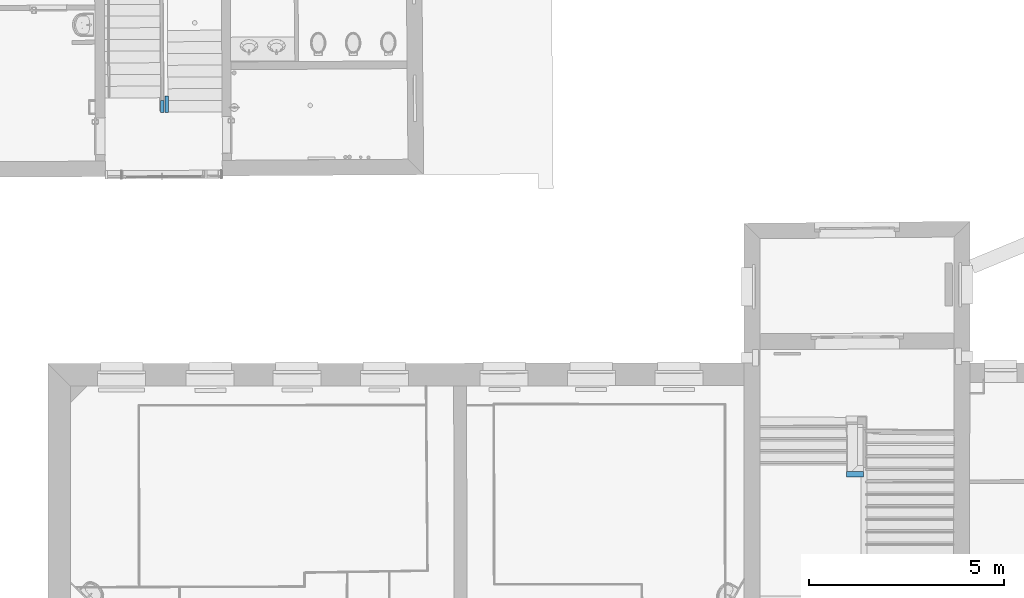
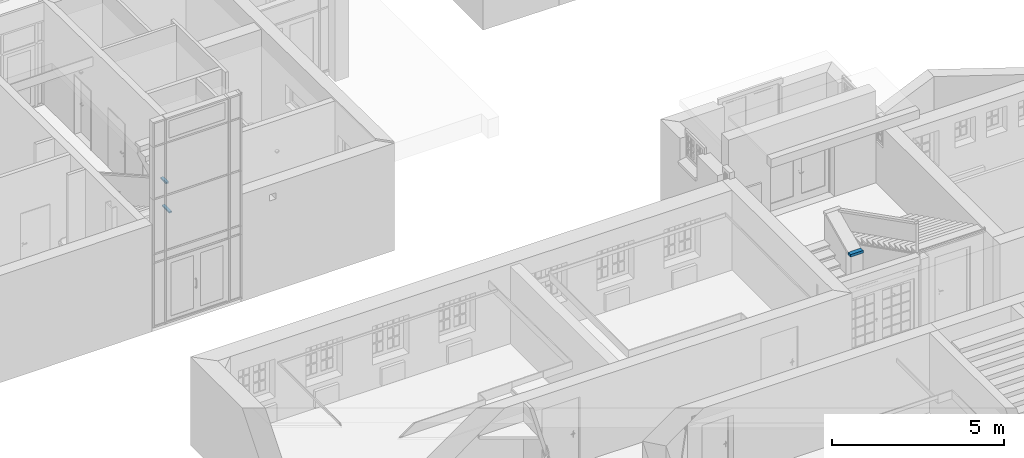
# One storey, part 8 of 196: 3 beams.
"""IFC2X3 building model written with IfcOpenShell, lengths in metres."""

from ifc_helpers import new_model, entity, si_unit, converted_unit, derived_unit, money_unit, direction, frame, frame_2d, origin_with_axes, place, context, subcontext, project, spatial, rectangle, extrude, clip, halfspace, material, type_object, element, save


model = new_model("IFC2X3")

# Units and contexts
model_context = context("Model", 3, precision=1e-05, world=origin_with_axes(), true_north=direction((0.0, 1.0)))
body_context = subcontext(model_context, "Body", "Model", "MODEL_VIEW")
ifc_project = project(units=[si_unit("LENGTHUNIT", "METRE"), si_unit("AREAUNIT", "SQUARE_METRE"), si_unit("VOLUMEUNIT", "CUBIC_METRE"), converted_unit("PLANEANGLEUNIT", "DEGREE", entity("IfcPlaneAngleMeasure", 0.0174532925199), si_unit("PLANEANGLEUNIT", "RADIAN"), dimensions=[0, 0, 0, 0, 0, 0, 0]), money_unit("EUR"), converted_unit("TIMEUNIT", "Year", entity("IfcTimeMeasure", 31556926.0), si_unit("TIMEUNIT", "SECOND"), dimensions=[0, 0, 1, 0, 0, 0, 0]), si_unit("MASSUNIT", "GRAM", prefix="KILO"), si_unit("THERMODYNAMICTEMPERATUREUNIT", "DEGREE_CELSIUS"), si_unit("LUMINOUSINTENSITYUNIT", "LUMEN"), si_unit("ENERGYUNIT", "JOULE", prefix="MEGA"), derived_unit("THERMALCONDUCTANCEUNIT", [(si_unit("POWERUNIT", "WATT"), 1), (si_unit("LENGTHUNIT", "METRE"), -1), (si_unit("THERMODYNAMICTEMPERATUREUNIT", "KELVIN"), -1)]), derived_unit("SPECIFICHEATCAPACITYUNIT", [(si_unit("ENERGYUNIT", "JOULE"), 1), (si_unit("MASSUNIT", "GRAM", prefix="KILO"), -1), (si_unit("THERMODYNAMICTEMPERATUREUNIT", "KELVIN"), -1)]), derived_unit("MASSDENSITYUNIT", [(si_unit("MASSUNIT", "GRAM", prefix="KILO"), 1), (si_unit("VOLUMEUNIT", "CUBIC_METRE"), -1)])], contexts=[model_context])

# Site, building, storey
site_placement = place(None, origin_with_axes())
site = spatial("IfcSite", under=ifc_project, at=site_placement, Name="Gelände", CompositionType="ELEMENT")
building_placement = place(site_placement, origin_with_axes())
building = spatial("IfcBuilding", under=site, at=building_placement, Name="Gebäude", CompositionType="ELEMENT")
storey_placement = place(building_placement, frame((0.0, 0.0, -3.0), z_axis=(0.0, 0.0, 1.0), x_axis=(1.0, 0.0, 0.0)))
storey = spatial("IfcBuildingStorey", under=building, at=storey_placement, Name="KELLERGESCHOSS", CompositionType="ELEMENT", Elevation=-3.0)

# Beams
ifc_material = material(Name="05_ALLGEMEIN - TRAGENDE BAUTEILE")
beam_type_1 = type_object("IfcBeamType", Name="05_ALLGEMEIN - TRAGENDE BAUTEILE 90 x 50", PredefinedType="LINTEL")
beam_1_placement = place(storey_placement, frame((-25.1235711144, 32.5389829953, 2.97168047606), z_axis=(0.0, 0.0, 1.0), x_axis=(0.999995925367, 0.0028546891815, 0.0)))
element("IfcBeam", 1, at=beam_1_placement, inside=storey, type_object=beam_type_1, material=ifc_material, Name="Unterzug-004", ObjectType="LINTEL", context=body_context, shape_type="SweptSolid", body=[
    extrude(rectangle(XDim=0.05, YDim=0.09, at=frame_2d((-0.025, 0.045), x_axis=(1.0, 0.0))), frame((0.0, 0.0, 0.0), z_axis=(0.0, 1.0, 0.0), x_axis=(0.0, 0.0, 1.0)), (0.0, 0.0, 1.0), 0.415698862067),
])
beam_type_2 = type_object("IfcBeamType", Name="05_ALLGEMEIN - TRAGENDE BAUTEILE 90 x 57", PredefinedType="LINTEL")
beam_2_placement = place(storey_placement, frame((-25.2331274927, 32.8467294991, 4.05994411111), z_axis=(0.0, 0.0, 1.0), x_axis=(-0.999959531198, -0.00899644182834, 0.0)))
element("IfcBeam", 2, at=beam_2_placement, inside=storey, type_object=beam_type_2, material=ifc_material, Name="Unterzug-005", ObjectType="LINTEL", context=body_context, shape_type="SweptSolid", body=[
    extrude(rectangle(XDim=0.0573252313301, YDim=0.09, at=frame_2d((-0.0286626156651, -0.045), x_axis=(1.0, 0.0))), frame((0.0, 0.0, 0.0), z_axis=(0.0, 1.0, 0.0), x_axis=(0.0, 0.0, 1.0)), (0.0, 0.0, 1.0), 0.315408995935),
])
beam_type_3 = type_object("IfcBeamType", Name="05_ALLGEMEIN - TRAGENDE BAUTEILE 145 x 89", PredefinedType="LINTEL")
beam_3_placement = place(storey_placement, frame((-7.19218470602, 23.1807275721, 1.00237116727), z_axis=(0.0, 0.0, 1.0), x_axis=(-0.00274154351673, 0.999996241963, 0.0)))
element("IfcBeam", 3, at=beam_3_placement, inside=storey, type_object=beam_type_3, material=ifc_material, Name="Unterzug-022", ObjectType="LINTEL", context=body_context, shape_type="Clipping", body=[
    clip(clip(extrude(rectangle(XDim=0.0890299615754, YDim=0.145, at=frame_2d((-0.0445149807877, 0.0725), x_axis=(1.0, 0.0))), frame((0.0, -0.000915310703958, 6.65422336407e-06), z_axis=(0.0, 0.999973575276, -0.0072697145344), x_axis=(0.0, 0.0072697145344, 0.999973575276)), (0.0, 0.0, 1.0), 0.43775128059), halfspace(frame((0.0, 0.0, 0.0), z_axis=(0.0, 1.0, 0.0), x_axis=(0.0, 0.0, 1.0)), True)), halfspace(frame((0.0, 0.435909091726, 0.0), z_axis=(0.0, -1.0, 0.0), x_axis=(0.0, 0.0, -1.0)), True)),
])

save(model, "model.ifc")
